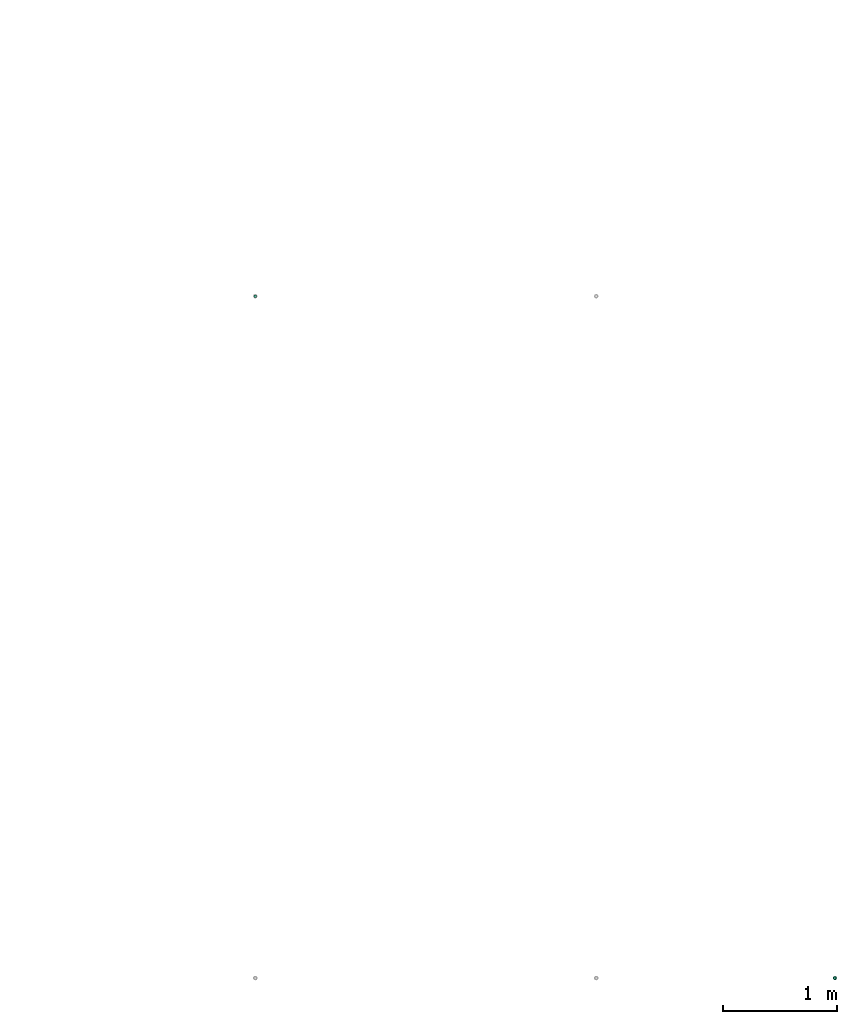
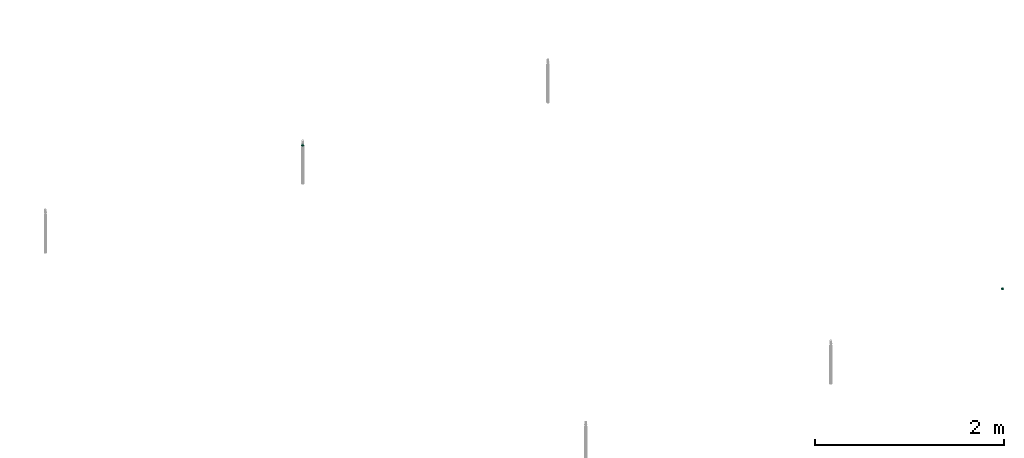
# One storey, part 11 of 44: 2 flow fittings.
"""IFC2X3 building model written with IfcOpenShell, lengths in millimetres."""

from ifc_helpers import new_model, entity, si_unit, converted_unit, derived_unit, direction, frame, origin_with_axes, place, context, subcontext, project, spatial, open_shell, surface_model, source, transform, mapped, type_object, element, save


model = new_model("IFC2X3")

# Units and contexts
model_context = context("Model", 3, precision=0.01, world=frame((0.0, 4.29681676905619e-09, 0.0)), true_north=direction((4.01073788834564e-13, 1.0)))
plan_context = context("Plan", 3, precision=0.01, world=frame((0.0, 4.29681676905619e-09, 0.0)), true_north=direction((4.01073788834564e-13, 1.0)))
body_context = subcontext(model_context, "Body", "Model", "MODEL_VIEW")
ifc_project = project(units=[converted_unit("PLANEANGLEUNIT", "DEGREE", entity("IfcPositiveLengthMeasure", 0.0174532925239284), si_unit("PLANEANGLEUNIT", "RADIAN"), dimensions=[0, 0, 0, 0, 0, 0, 0]), si_unit("AREAUNIT", "SQUARE_METRE"), si_unit("LENGTHUNIT", "METRE", prefix="MILLI"), si_unit("MASSUNIT", "GRAM", prefix="KILO"), si_unit("POWERUNIT", "WATT"), si_unit("PRESSUREUNIT", "PASCAL"), si_unit("FORCEUNIT", "NEWTON", prefix="KILO"), si_unit("ELECTRICVOLTAGEUNIT", "VOLT"), si_unit("ELECTRICCURRENTUNIT", "AMPERE"), si_unit("THERMODYNAMICTEMPERATUREUNIT", "DEGREE_CELSIUS"), si_unit("TIMEUNIT", "SECOND"), si_unit("VOLUMEUNIT", "CUBIC_METRE"), derived_unit("LINEARVELOCITYUNIT", [(si_unit("LENGTHUNIT", "METRE"), 1), (si_unit("TIMEUNIT", "SECOND"), -1)]), derived_unit("VOLUMETRICFLOWRATEUNIT", [(si_unit("VOLUMEUNIT", "CUBIC_METRE"), 1), (si_unit("TIMEUNIT", "SECOND"), -1)]), derived_unit("THERMALTRANSMITTANCEUNIT", [(si_unit("POWERUNIT", "WATT"), 1), (si_unit("THERMODYNAMICTEMPERATUREUNIT", "KELVIN"), -1), (si_unit("AREAUNIT", "SQUARE_METRE"), -1)]), derived_unit("SOUNDPRESSUREUNIT", [(si_unit("PRESSUREUNIT", "PASCAL"), 1)])], contexts=[model_context, plan_context])

# Site, building, storey
site_placement = place(None, frame((0.0, -4.29681676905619e-09, 0.0), z_axis=(0.0, 0.0, 1.0), x_axis=(1.0, 0.0, 0.0)))
site = spatial("IfcSite", under=ifc_project, at=site_placement, CompositionType="ELEMENT")
building_placement = place(site_placement, frame((0.0, 4.29681676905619e-09, 0.0), z_axis=(0.0, 0.0, 1.0), x_axis=(1.0, 0.0, 0.0)))
building = spatial("IfcBuilding", under=site, at=building_placement, Name="mc-building", CompositionType="ELEMENT")
storey_placement = place(building_placement, frame((0.0, 0.0, 207370.0), z_axis=(0.0, 0.0, 1.0), x_axis=(1.0, 0.0, 0.0)))
storey = spatial("IfcBuildingStorey", under=building, at=storey_placement, Name="Nivå E", CompositionType="ELEMENT", Elevation=207370.0)

# Flow fittings
pipe_fitting_type = type_object("IfcPipeFittingType", Name="magi_pipe_fe_reducer_centric_short_NOR", PredefinedType="TRANSITION")
shared_shape = source(origin_with_axes(), body_context, "Body", "SurfaceModel", [
    surface_model("IfcShellBasedSurfaceModel", [(-2.0, -7.56604, -7.56604), (-2.0, -10.33541, -2.76936), (-2.0, -5.35, -9.26647), (-2.0, 5.35, -9.26647), (-2.0, 10.33541, -2.76936), (-2.0, 7.56604, -7.56604), (12.4, 11.9501, 11.9501), (12.4, 0.0, 16.9), (12.4, 11.9501, -11.9501), (12.4, 16.9, 0.0), (0.0, -10.7, 0.0), (0.0, -5.35, 9.26647), (0.0, -5.35, -9.26647), (0.0, 10.7, 0.0), (12.4, 15.66253, -2.98753), (12.4, 8.96258, -13.18758), (0.0, 6.6875, -6.94985), (12.4, -15.66253, -2.98753), (12.4, -16.9, 0.0), (12.4, 5.97505, -14.42505), (0.0, 5.35, -9.26647), (12.4, 14.42505, -5.97505), (0.0, 8.025, -4.63324), (0.0, 9.3625, -2.31662), (0.0, -9.3625, -2.31662), (0.0, -8.025, -4.63324), (12.4, -14.42505, -5.97505), (12.4, 13.18758, -8.96258), (12.4, -13.18758, -8.96258), (12.4, -11.9501, -11.9501), (0.0, -6.6875, -6.94985), (12.4, -8.96258, -13.18758), (12.4, -5.97505, -14.42505), (12.4, -15.66253, 2.98753), (12.4, -8.96258, 13.18758), (0.0, -6.6875, 6.94985), (12.4, -11.9501, 11.9501), (12.4, 15.66253, 2.98753), (12.4, -5.97505, 14.42505), (12.4, -14.42505, 5.97505), (0.0, -8.025, 4.63324), (0.0, -9.3625, 2.31662), (0.0, 9.3625, 2.31662), (0.0, 8.025, 4.63324), (12.4, 14.42505, 5.97505), (12.4, -13.18758, 8.96258), (12.4, 13.18758, 8.96258), (0.0, 6.6875, 6.94985), (12.4, 8.96258, 13.18758), (0.0, 5.35, 9.26647), (12.4, 5.97505, 14.42505), (14.4, 4.37404, -16.32415), (14.4, 8.45, -14.63583), (14.4, 11.9501, -11.9501), (14.4, -8.45, -14.63583), (14.4, 16.32415, -4.37404), (14.4, 16.32415, 4.37404), (14.4, 14.63583, -8.45), (14.4, 0.0, -16.9), (14.4, -4.37404, -16.32415), (14.4, -11.9501, -11.9501), (14.4, -16.32415, -4.37404), (14.4, -14.63583, -8.45), (14.4, -16.32415, 4.37404), (14.4, 16.9, 0.0), (14.4, 14.63583, 8.45), (14.4, 11.9501, 11.9501), (14.4, 4.37404, 16.32415), (14.4, 8.45, 14.63583), (14.4, 0.0, 16.9), (14.4, -14.63583, 8.45), (14.4, -16.9, 0.0), (14.4, -8.45, 14.63583), (14.4, -11.9501, 11.9501), (14.4, -4.37404, 16.32415), (12.4, 4.37404, 16.32415), (12.4, -14.63583, 8.45), (12.4, 16.32415, 4.37404), (12.4, 8.45, 14.63583), (12.4, 14.63583, 8.45), (12.4, -8.45, 14.63583), (12.4, -4.37404, 16.32415), (12.4, -16.32415, 4.37404), (12.4, -16.32415, -4.37404), (12.4, -8.45, -14.63583), (12.4, 16.32415, -4.37404), (12.4, 14.63583, -8.45), (12.4, 8.45, -14.63583), (12.4, 4.37404, -16.32415), (12.4, 0.0, -16.9), (12.4, -14.63583, -8.45), (12.4, -4.37404, -16.32415), (-2.0, 2.76936, 10.33541), (-2.0, 0.0, 10.7), (-2.0, 5.35, 9.26647), (-2.0, 7.56604, 7.56604), (-2.0, 9.26647, 5.35), (-2.0, 10.33541, 2.76936), (-2.0, -10.33541, 2.76936), (-2.0, -2.76936, 10.33541), (-2.0, -7.56604, 7.56604), (-2.0, -5.35, 9.26647), (-2.0, -9.26647, 5.35), (-2.0, -10.7, 0.0), (-2.0, 9.26647, -5.35), (-2.0, 2.76936, -10.33541), (-2.0, -9.26647, -5.35), (-2.0, 0.0, -10.7), (-2.0, -2.76936, -10.33541), (-2.0, 10.7, 0.0), (0.0, 0.0, -10.7), (0.0, 2.76936, -10.33541), (0.0, 10.33541, -2.76936), (0.0, 7.56604, -7.56604), (0.0, -10.33541, -2.76936), (0.0, 9.26647, -5.35), (0.0, 0.0, 10.7), (0.0, -2.76936, -10.33541), (0.0, -7.56604, -7.56604), (0.0, -9.26647, -5.35), (0.0, 10.33541, 2.76936), (0.0, 9.26647, 5.35), (0.0, 7.56604, 7.56604), (0.0, 2.76936, 10.33541), (0.0, -7.56604, 7.56604), (0.0, -10.33541, 2.76936), (0.0, -9.26647, 5.35), (0.0, -2.76936, 10.33541), (0.0, 2.675, -9.26647), (0.0, -2.675, -9.26647), (12.4, 2.98753, -15.66253), (0.0, 0.0, -9.26647), (12.4, -2.98753, -15.66253), (0.0, -2.675, 9.26647), (0.0, 2.675, 9.26647), (12.4, -2.98753, 15.66253), (0.0, 0.0, 9.26647), (12.4, 2.98753, 15.66253)], [open_shell([[[0, 1, 2]], [[3, 4, 5]], [[6, 7, 8]], [[8, 9, 6]], [[10, 11, 12]], [[13, 9, 14]], [[15, 16, 8]], [[17, 18, 10]], [[15, 19, 20]], [[21, 22, 23]], [[24, 25, 26]], [[22, 21, 27]], [[28, 26, 25]], [[29, 30, 31]], [[12, 32, 31]], [[10, 18, 33]], [[34, 35, 36]], [[37, 9, 13]], [[34, 38, 11]], [[39, 40, 41]], [[42, 43, 44]], [[40, 39, 45]], [[46, 44, 43]], [[6, 47, 48]], [[49, 50, 48]], [[51, 52, 53]], [[54, 51, 53]], [[53, 55, 56]], [[55, 53, 57]], [[53, 56, 54]], [[58, 54, 59]], [[58, 51, 54]], [[60, 61, 62]], [[61, 60, 54]], [[54, 63, 61]], [[56, 55, 64]], [[56, 65, 66]], [[56, 66, 67]], [[67, 63, 54]], [[67, 66, 68]], [[63, 67, 69]], [[69, 70, 63]], [[71, 61, 63]], [[70, 72, 73]], [[70, 69, 72]], [[72, 69, 74]], [[54, 56, 67]], [[75, 76, 7]], [[77, 75, 78]], [[6, 79, 77]], [[6, 77, 78]], [[76, 75, 77]], [[80, 76, 36]], [[80, 81, 7]], [[7, 76, 80]], [[82, 76, 77]], [[82, 83, 18]], [[82, 77, 84]], [[77, 85, 8]], [[8, 85, 86]], [[8, 87, 88]], [[84, 77, 8]], [[88, 89, 8]], [[83, 29, 90]], [[29, 83, 84]], [[84, 89, 91]], [[83, 82, 84]], [[8, 89, 84]], [[85, 77, 9]], [[83, 61, 18]], [[90, 62, 83]], [[54, 29, 84]], [[90, 29, 60]], [[59, 84, 91]], [[83, 62, 61]], [[61, 71, 18]], [[59, 54, 84]], [[60, 29, 54]], [[60, 62, 90]], [[58, 59, 91]], [[91, 89, 58]], [[88, 51, 89]], [[87, 52, 88]], [[57, 8, 86]], [[87, 8, 53]], [[55, 86, 85]], [[87, 53, 52]], [[52, 51, 88]], [[64, 55, 85]], [[57, 86, 55]], [[57, 53, 8]], [[9, 64, 85]], [[89, 51, 58]], [[77, 56, 9]], [[79, 65, 77]], [[68, 6, 78]], [[79, 6, 66]], [[67, 78, 75]], [[77, 65, 56]], [[56, 64, 9]], [[67, 68, 78]], [[66, 6, 68]], [[66, 65, 79]], [[69, 67, 75]], [[75, 7, 69]], [[81, 74, 7]], [[80, 72, 81]], [[70, 36, 76]], [[80, 36, 73]], [[63, 76, 82]], [[80, 73, 72]], [[72, 74, 81]], [[71, 63, 82]], [[70, 76, 63]], [[70, 73, 36]], [[18, 71, 82]], [[7, 74, 69]], [[92, 1, 93]], [[94, 1, 92]], [[95, 96, 97]], [[95, 97, 94]], [[98, 93, 1]], [[99, 100, 101]], [[99, 93, 100]], [[100, 98, 102]], [[93, 98, 100]], [[98, 1, 103]], [[94, 97, 1]], [[1, 97, 4]], [[5, 4, 104]], [[4, 3, 1]], [[105, 1, 3]], [[1, 0, 106]], [[2, 107, 108]], [[2, 1, 105]], [[105, 107, 2]], [[4, 97, 109]], [[20, 110, 111]], [[112, 20, 113]], [[114, 20, 112]], [[112, 113, 115]], [[116, 114, 112]], [[110, 12, 117]], [[110, 20, 12]], [[118, 114, 119]], [[114, 118, 12]], [[20, 114, 12]], [[112, 13, 120]], [[120, 121, 122]], [[120, 122, 123]], [[116, 112, 123]], [[123, 122, 49]], [[116, 124, 114]], [[125, 124, 126]], [[10, 114, 125]], [[124, 127, 11]], [[125, 114, 124]], [[127, 124, 116]], [[123, 112, 120]], [[1, 114, 103]], [[106, 119, 1]], [[12, 0, 2]], [[106, 0, 118]], [[117, 2, 108]], [[1, 119, 114]], [[114, 10, 103]], [[117, 12, 2]], [[118, 0, 12]], [[118, 119, 106]], [[110, 117, 108]], [[108, 107, 110]], [[105, 111, 107]], [[3, 20, 105]], [[115, 5, 104]], [[3, 5, 113]], [[112, 104, 4]], [[3, 113, 20]], [[20, 111, 105]], [[13, 112, 4]], [[115, 104, 112]], [[115, 113, 5]], [[109, 13, 4]], [[107, 111, 110]], [[97, 120, 109]], [[96, 121, 97]], [[49, 95, 94]], [[96, 95, 122]], [[123, 94, 92]], [[97, 121, 120]], [[120, 13, 109]], [[123, 49, 94]], [[122, 95, 49]], [[122, 121, 96]], [[116, 123, 92]], [[92, 93, 116]], [[99, 127, 93]], [[101, 11, 99]], [[126, 100, 102]], [[101, 100, 124]], [[125, 102, 98]], [[101, 124, 11]], [[11, 127, 99]], [[10, 125, 98]], [[126, 102, 125]], [[126, 124, 100]], [[103, 10, 98]], [[93, 127, 116]], [[18, 7, 36]], [[18, 29, 8]], [[89, 8, 29]], [[18, 8, 7]], [[13, 11, 49]], [[13, 20, 12]], [[13, 12, 11]], [[24, 26, 17]], [[10, 24, 17]], [[16, 15, 20]], [[30, 12, 31]], [[23, 14, 21]], [[19, 128, 20]], [[27, 8, 16]], [[32, 12, 129]], [[30, 28, 25]], [[130, 131, 128]], [[129, 132, 32]], [[16, 22, 27]], [[13, 14, 23]], [[128, 19, 130]], [[130, 89, 131]], [[131, 132, 129]], [[89, 132, 131]], [[28, 30, 29]], [[42, 44, 37]], [[13, 42, 37]], [[35, 34, 11]], [[47, 49, 48]], [[41, 33, 39]], [[38, 133, 11]], [[45, 36, 35]], [[50, 49, 134]], [[47, 46, 43]], [[135, 136, 133]], [[134, 137, 50]], [[35, 40, 45]], [[10, 33, 41]], [[133, 38, 135]], [[135, 7, 136]], [[136, 137, 134]], [[7, 137, 136]], [[46, 47, 6]]])]),
])
for number, where, z_axis, x_axis, name in (
    (1, (535600.05, 441009.83177, 3033.90955000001), (1.0, 0.0, 0.0), (0.0, 0.0, -1.0), "magi_pipe_fe_reducer_centric_short_NOR"),
    (2, (530500.0, 447009.83177, 3040.00555), (1.0, 0.0, 0.0), (0.0, 0.0, -1.0), "magi_pipe_fe_reducer_centric_short_NOR"),
):
    element("IfcFlowFitting", number, at=place(storey_placement, frame(where, z_axis=z_axis, x_axis=x_axis)), inside=storey, type_object=pipe_fitting_type, Name=name, context=body_context, shape_type="MappedRepresentation", body=[
        mapped(shared_shape, transform((0.0, 0.0, 0.0), scale=1.0)),
    ])

save(model, "model.ifc")
